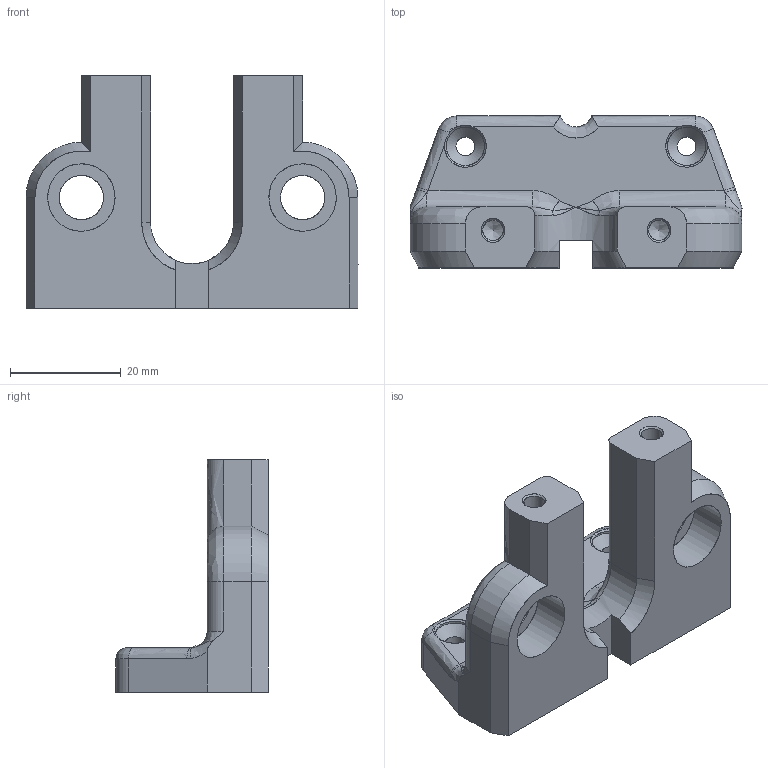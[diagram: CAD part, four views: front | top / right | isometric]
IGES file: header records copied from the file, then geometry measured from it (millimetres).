
Global section: file name: C:\Users\gehrichcr\Documents\1 Drive Backup\Practice\Inspire\V1.5\IGES\Frame Bushing Holder Front V1.5.igs; native system: NX V8.5; preprocessor: SIEMENS PLM Software NX 8.5; date: 20150608.094128; units: millimetre
Bounding box: 60.03 x 27.5 x 42 mm (x, y, z)
Surface area: 8708.3 mm2 (no closed solid volume)
Topology: 0 solids, 0 shells, 90 faces, 605 edges, 587 vertices
Faces by surface type: bspline 90
